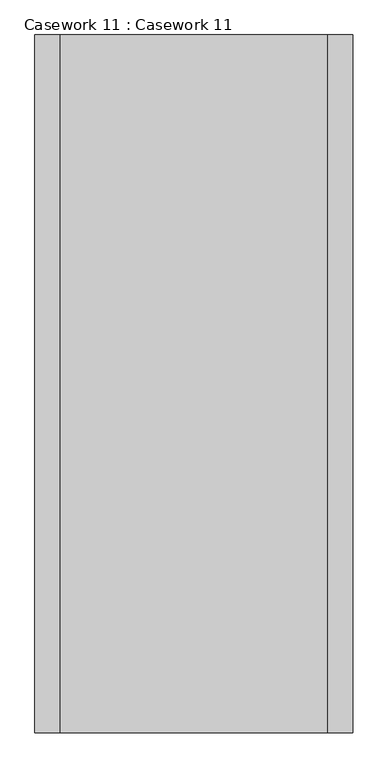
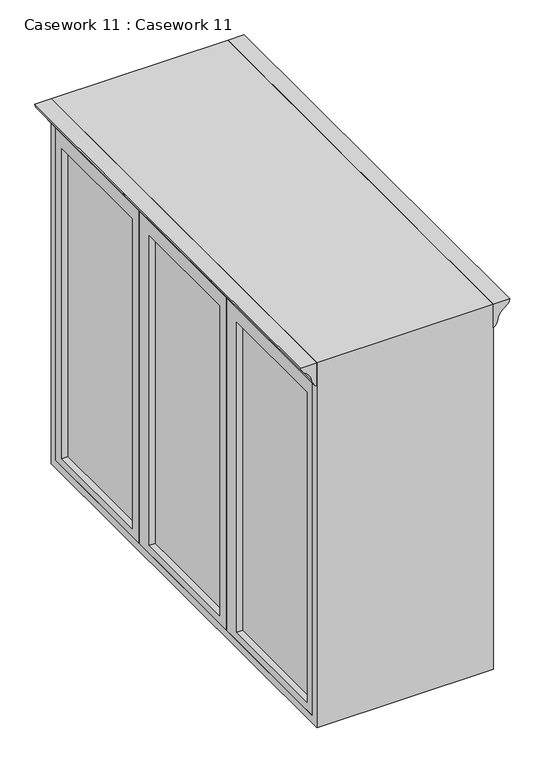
"""IFC4 building model written with IfcOpenShell, lengths in millimetres: furniture geometry, Casework 11 : Casework 11."""

from ifc_helpers import new_model, si_unit, point, frame, frame_2d, origin, place, context, project, spatial, polyline, circle_curve, trimmed, segment, composite_curve, outline, extrude, source, transform, mapped, element, save
from ifc_brep_helpers import plane_surface, cylinder_surface, revolved_surface, advanced_brep


def casework_11_casework_11_e8552cba(model_context):
    return source(origin(), model_context, "Body", "SolidModel", [
        advanced_brep(
        [(5480.05, 6641.9947939, 5562.6), (5465.960615, 6641.9947939, 5583.7340775), (5443.339385, 6641.9947939, 5617.6659225), (5429.25, 6641.9947939, 5638.8), (5480.05, 6641.9947939, 5638.8), (5480.05, 6170.5072939, 5562.6), (5465.960615, 6170.5072939, 5583.7340775), (5443.339385, 6170.5072939, 5617.6659225), (5429.25, 6170.5072939, 5638.8), (5429.25, 5702.7036004, 5638.8), (5429.25, 5219.5947939, 5638.8), (5480.05, 5219.5947939, 5638.8), (5480.05, 5219.5947939, 5562.6), (5480.05, 5702.7036004, 5562.6), (5465.960615, 5702.7036004, 5583.7340775), (5443.339385, 5702.7036004, 5617.6659225), (5443.339385, 5219.5947939, 5617.6659225), (5465.960615, 5219.5947939, 5583.7340775)],
        [
            (0, 1, circle_curve(frame((5494.0289399, 6641.9947939, 5587.1827937), z_axis=(0.0, 1.0, 0.0), x_axis=(1.0, 0.0, 0.0)), 28.2794007)),
            (1, 2, circle_curve(frame((5420.8954802, 6641.9947939, 5578.1969868), z_axis=(0.0, -1.0, 0.0), x_axis=(1.0, 0.0, 0.0)), 45.4040279)),
            (2, 3, circle_curve(frame((5457.3183249, 6641.9947939, 5642.2487162), z_axis=(0.0, 1.0, 0.0), x_axis=(1.0, 0.0, 0.0)), 28.2794007)),
            (3, 4),
            (4, 0),
            (0, 5),
            (5, 6, circle_curve(frame((5494.0289399, 6170.5072939, 5587.1827937), z_axis=(0.0, 1.0, 0.0), x_axis=(1.0, 0.0, 0.0)), 28.2794007)),
            (6, 1),
            (6, 7, circle_curve(frame((5420.8954802, 6170.5072939, 5578.1969868), z_axis=(0.0, -1.0, 0.0), x_axis=(1.0, 0.0, 0.0)), 45.4040279)),
            (7, 2),
            (7, 8, circle_curve(frame((5457.3183249, 6170.5072939, 5642.2487162), z_axis=(0.0, 1.0, 0.0), x_axis=(1.0, 0.0, 0.0)), 28.2794007)),
            (8, 3),
            (8, 9),
            (9, 10),
            (10, 11),
            (11, 4),
            (11, 12),
            (12, 13),
            (13, 5),
            (13, 14, circle_curve(frame((5494.0289399, 5702.7036004, 5587.1827937), z_axis=(0.0, 1.0, 0.0), x_axis=(1.0, 0.0, 0.0)), 28.2794007)),
            (14, 6),
            (14, 15, circle_curve(frame((5420.8954802, 5702.7036004, 5578.1969868), z_axis=(0.0, -1.0, 0.0), x_axis=(1.0, 0.0, 0.0)), 45.4040279)),
            (15, 7),
            (15, 9, circle_curve(frame((5457.3183249, 5702.7036004, 5642.2487162), z_axis=(0.0, 1.0, 0.0), x_axis=(1.0, 0.0, 0.0)), 28.2794007)),
            (10, 16, circle_curve(frame((5457.3183249, 5219.5947939, 5642.2487162), z_axis=(0.0, -1.0, 0.0), x_axis=(1.0, 0.0, 0.0)), 28.2794007)),
            (16, 17, circle_curve(frame((5420.8954802, 5219.5947939, 5578.1969868), z_axis=(0.0, 1.0, 0.0), x_axis=(1.0, 0.0, 0.0)), 45.4040279)),
            (17, 12, circle_curve(frame((5494.0289399, 5219.5947939, 5587.1827937), z_axis=(0.0, -1.0, 0.0), x_axis=(1.0, 0.0, 0.0)), 28.2794007)),
            (17, 14),
            (16, 15),
        ],
        [
            plane_surface(frame((5480.05, 6641.9947939, 5638.8), z_axis=(0.0, 1.0, 0.0), x_axis=(0.0, 0.0, 1.0))),
            cylinder_surface(frame((5494.0289399, 6641.9947939, 5587.1827937), z_axis=(0.0, 1.0, 0.0), x_axis=(1.0, 0.0, 0.0)), 28.2794007),
            revolved_surface(polyline([(5466.2995081, 6170.5072939, 5578.1969868), (5466.2995081, 6641.9947939, 5578.1969868)]), (5420.8954802, 6641.9947939, 5578.1969868), (0.0, -1.0, 0.0)),
            cylinder_surface(frame((5457.3183249, 6641.9947939, 5642.2487162), z_axis=(0.0, 1.0, 0.0), x_axis=(1.0, 0.0, 0.0)), 28.2794007),
            plane_surface(frame((5429.25, 6641.9947939, 5638.8), z_axis=(0.0, 0.0, 1.0), x_axis=(0.0, -1.0, 0.0))),
            plane_surface(frame((5480.05, 6641.9947939, 5638.8), z_axis=(1.0, 0.0, 0.0), x_axis=(0.0, -1.0, 0.0))),
            cylinder_surface(frame((5494.0289399, 6170.5072939, 5587.1827937), z_axis=(0.0, 1.0, 0.0), x_axis=(1.0, 0.0, 0.0)), 28.2794007),
            revolved_surface(polyline([(5466.2995081, 5702.7036004, 5578.1969868), (5466.2995081, 6170.5072939, 5578.1969868)]), (5420.8954802, 6170.5072939, 5578.1969868), (0.0, -1.0, 0.0)),
            cylinder_surface(frame((5457.3183249, 6170.5072939, 5642.2487162), z_axis=(0.0, 1.0, 0.0), x_axis=(1.0, 0.0, 0.0)), 28.2794007),
            plane_surface(frame((5480.05, 5219.5947939, 5638.8), z_axis=(0.0, -1.0, 0.0), x_axis=(0.0, 0.0, 1.0))),
            cylinder_surface(frame((5494.0289399, 5702.7036004, 5587.1827937), z_axis=(0.0, 1.0, 0.0), x_axis=(1.0, 0.0, 0.0)), 28.2794007),
            revolved_surface(polyline([(5466.2995081, 5219.5947939, 5578.1969868), (5466.2995081, 5702.7036004, 5578.1969868)]), (5420.8954802, 5702.7036004, 5578.1969868), (0.0, -1.0, 0.0)),
            cylinder_surface(frame((5457.3183249, 5702.7036004, 5642.2487162), z_axis=(0.0, 1.0, 0.0), x_axis=(1.0, 0.0, 0.0)), 28.2794007),
        ],
        [
            (0, [[1, 2, 3, 4, 5]]),
            (1, [[-1, 6, 7, 8]]),
            (2, [[-2, -8, 9, 10]]),
            (3, [[-3, -10, 11, 12]]),
            (4, [[-4, -12, 13, 14, 15, 16]]),
            (5, [[-5, -16, 17, 18, 19, -6]]),
            (6, [[-7, -19, 20, 21]]),
            (7, [[-9, -21, 22, 23]]),
            (8, [[-11, -23, 24, -13]]),
            (9, [[-17, -15, 25, 26, 27]]),
            (10, [[-20, -18, -27, 28]]),
            (11, [[-22, -28, -26, 29]]),
            (12, [[-24, -29, -25, -14]]),
        ],
    ),
        extrude(outline(polyline([(5505.45, 6585.9234873), (5505.45, 6208.0984873), (5499.1, 6208.0984873), (5499.1, 6585.9234873), (5505.45, 6585.9234873)])), frame((0.0, 0.0, 4497.3875), z_axis=(0.0, 0.0, 1.0), x_axis=(1.0, 0.0, 0.0)), (0.0, 0.0, 1.0), 1012.825),
        extrude(outline(polyline([(5505.45, 6117.6109873), (5505.45, 5739.7859873), (5499.1, 5739.7859873), (5499.1, 6117.6109873), (5505.45, 6117.6109873)])), frame((0.0, 0.0, 4497.3875), z_axis=(0.0, 0.0, 1.0), x_axis=(1.0, 0.0, 0.0)), (0.0, 0.0, 1.0), 1012.825),
        extrude(outline(polyline([(5505.45, 5649.8072939), (5505.45, 5271.9822939), (5499.1, 5271.9822939), (5499.1, 5649.8072939), (5505.45, 5649.8072939)])), frame((0.0, 0.0, 4497.3875), z_axis=(0.0, 0.0, 1.0), x_axis=(1.0, 0.0, 0.0)), (0.0, 0.0, 1.0), 1012.825),
        extrude(outline(polyline([(6619.2304471, 5561.0125), (6619.2304471, 4471.9875), (6170.5072939, 4471.9875), (6170.5072939, 5561.0125), (6619.2304471, 5561.0125)]), holes=[polyline([(6208.0984873, 5510.2125), (6208.0984873, 4497.3875), (6585.9234873, 4497.3875), (6585.9234873, 5510.2125), (6208.0984873, 5510.2125)])]), frame((5480.05, 0.0, 0.0), z_axis=(1.0, 0.0, 0.0), x_axis=(0.0, 1.0, 0.0)), (0.0, 0.0, 1.0), 25.4),
        extrude(outline(polyline([(6170.5072939, 5561.0125), (6170.5072939, 4471.9875), (5702.1947939, 4471.9875), (5702.1947939, 5561.0125), (6170.5072939, 5561.0125)]), holes=[polyline([(5739.7859873, 5510.2125), (5739.7859873, 4497.3875), (6117.6109873, 4497.3875), (6117.6109873, 5510.2125), (5739.7859873, 5510.2125)])]), frame((5480.05, 0.0, 0.0), z_axis=(1.0, 0.0, 0.0), x_axis=(0.0, 1.0, 0.0)), (0.0, 0.0, 1.0), 25.4),
        extrude(outline(polyline([(5702.7036004, 5561.0125), (5702.7036004, 4471.9875), (5244.9947939, 4471.9875), (5244.9947939, 5561.0125), (5702.7036004, 5561.0125)]), holes=[polyline([(5271.9822939, 5510.2125), (5271.9822939, 4497.3875), (5649.8072939, 4497.3875), (5649.8072939, 5510.2125), (5271.9822939, 5510.2125)])]), frame((5480.05, 0.0, 0.0), z_axis=(1.0, 0.0, 0.0), x_axis=(0.0, 1.0, 0.0)), (0.0, 0.0, 1.0), 25.4),
        extrude(outline(composite_curve([segment(trimmed(circle_curve(frame_2d((5587.1827937, 6012.1710601)), 28.2794007), [point((5562.6, 6026.15))], [point((5583.7340775, 6040.239385))], False, "CARTESIAN"), True, "CONTINUOUS"), segment(trimmed(circle_curve(frame_2d((5578.1969868, 6085.3045198)), 45.4040279), [point((5583.7340775, 6040.239385))], [point((5617.6659225, 6062.860615))], True, "CARTESIAN"), True, "CONTINUOUS"), segment(trimmed(circle_curve(frame_2d((5642.2487162, 6048.8816751)), 28.2794007), [point((5617.6659225, 6062.860615))], [point((5638.8, 6076.95))], False, "CARTESIAN"), True, "CONTINUOUS"), segment(polyline([(5638.8, 6076.95), (5638.8, 6026.15), (5562.6, 6026.15)]), True, "CONTINUOUS")], self_intersect=False)), frame((0.0, 5219.5947939, 0.0), z_axis=(0.0, 1.0, 0.0), x_axis=(0.0, 0.0, 1.0)), (0.0, 0.0, 1.0), 1422.4),
        extrude(outline(polyline([(6026.15, 6585.9234873), (6026.15, 6208.0984873), (6019.8, 6208.0984873), (6019.8, 6585.9234873), (6026.15, 6585.9234873)])), frame((0.0, 0.0, 4497.3875), z_axis=(0.0, 0.0, 1.0), x_axis=(1.0, 0.0, 0.0)), (0.0, 0.0, 1.0), 1012.825),
        extrude(outline(polyline([(6026.15, 6117.6109873), (6026.15, 5739.7859873), (6019.8, 5739.7859873), (6019.8, 6117.6109873), (6026.15, 6117.6109873)])), frame((0.0, 0.0, 4497.3875), z_axis=(0.0, 0.0, 1.0), x_axis=(1.0, 0.0, 0.0)), (0.0, 0.0, 1.0), 1012.825),
        extrude(outline(polyline([(6026.15, 5649.8072939), (6026.15, 5271.9822939), (6019.8, 5271.9822939), (6019.8, 5649.8072939), (6026.15, 5649.8072939)])), frame((0.0, 0.0, 4497.3875), z_axis=(0.0, 0.0, 1.0), x_axis=(1.0, 0.0, 0.0)), (0.0, 0.0, 1.0), 1012.825),
        extrude(outline(polyline([(6619.2304471, 5561.0125), (6619.2304471, 4471.9875), (6170.5072939, 4471.9875), (6170.5072939, 5561.0125), (6619.2304471, 5561.0125)]), holes=[polyline([(6208.0984873, 5510.2125), (6208.0984873, 4497.3875), (6585.9234873, 4497.3875), (6585.9234873, 5510.2125), (6208.0984873, 5510.2125)])]), frame((6000.75, 0.0, 0.0), z_axis=(1.0, 0.0, 0.0), x_axis=(0.0, 1.0, 0.0)), (0.0, 0.0, 1.0), 25.4),
        extrude(outline(polyline([(6170.5072939, 5561.0125), (6170.5072939, 4471.9875), (5702.1947939, 4471.9875), (5702.1947939, 5561.0125), (6170.5072939, 5561.0125)]), holes=[polyline([(5739.7859873, 5510.2125), (5739.7859873, 4497.3875), (6117.6109873, 4497.3875), (6117.6109873, 5510.2125), (5739.7859873, 5510.2125)])]), frame((6000.75, 0.0, 0.0), z_axis=(1.0, 0.0, 0.0), x_axis=(0.0, 1.0, 0.0)), (0.0, 0.0, 1.0), 25.4),
        extrude(outline(polyline([(5702.7036004, 5561.0125), (5702.7036004, 4471.9875), (5244.9947939, 4471.9875), (5244.9947939, 5561.0125), (5702.7036004, 5561.0125)]), holes=[polyline([(5271.9822939, 5510.2125), (5271.9822939, 4497.3875), (5649.8072939, 4497.3875), (5649.8072939, 5510.2125), (5271.9822939, 5510.2125)])]), frame((6000.75, 0.0, 0.0), z_axis=(1.0, 0.0, 0.0), x_axis=(0.0, 1.0, 0.0)), (0.0, 0.0, 1.0), 25.4),
        extrude(outline(polyline([(5219.5947939, 5638.8), (6641.9947939, 5638.8), (6641.9947939, 4446.5875), (5219.5947939, 4446.5875), (5219.5947939, 5638.8)]), holes=[polyline([(6616.5947939, 5561.0125), (5244.9947939, 5561.0125), (5244.9947939, 4471.9875), (6616.5947939, 4471.9875), (6616.5947939, 5561.0125)])]), frame((5480.05, 0.0, 0.0), z_axis=(1.0, 0.0, 0.0), x_axis=(0.0, 1.0, 0.0)), (0.0, 0.0, 1.0), 546.1),
    ])


if __name__ == "__main__":
    model = new_model("IFC4")
    model_context = context("Model", 3, world=origin())
    ifc_project = project(units=[si_unit("LENGTHUNIT", "METRE", prefix="MILLI")], contexts=[model_context])
    site = spatial("IfcSite", under=ifc_project)
    building = spatial("IfcBuilding", under=site)
    placement = place(None, origin())
    casework_11_casework_11_shape = casework_11_casework_11_e8552cba(model_context)
    element("IfcFurniture", 1, ObjectType="Casework 11 : Casework 11", at=placement, inside=building, context=model_context, shape_type="MappedRepresentation", body=[
        mapped(casework_11_casework_11_shape, transform((0.0, 0.0, 0.0), x_axis=(1.0, 0.0, 0.0), y_axis=(0.0, 1.0, 0.0), z_axis=(0.0, 0.0, 1.0))),
    ])
    save(model, "model.ifc")
